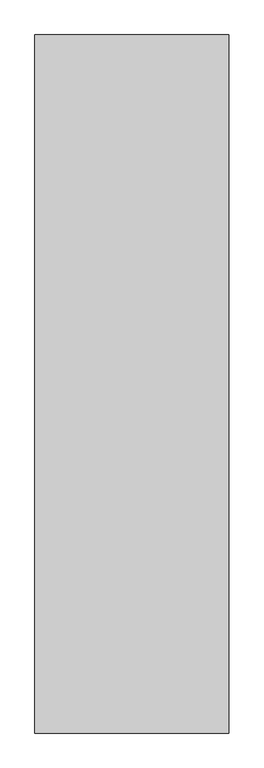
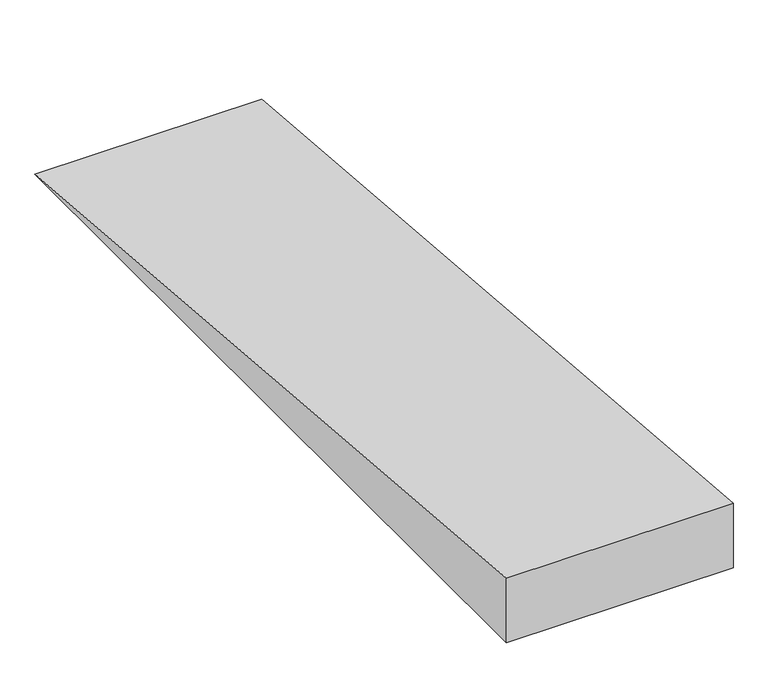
"""IFC4 building model written with IfcOpenShell, lengths in millimetres: ramp geometry, 教学楼坡道 – 1/12."""

from ifc_helpers import new_model, si_unit, frame, origin, place, context, project, spatial, polyline, outline, extrude, source, transform, mapped, element, save


def ramp_9aa5c65a(model_context):
    return source(origin(), model_context, "Body", "SweptSolid", [
        extrude(outline(polyline([(21200.0, 0.0), (26600.0, -450.0), (21200.0, -450.0), (21200.0, 0.0)])), frame((83750.0, 0.0, 0.0), z_axis=(1.0, 0.0, 0.0), x_axis=(0.0, 1.0, 0.0)), (0.0, 0.0, 1.0), 1500.0),
    ])


if __name__ == "__main__":
    model = new_model("IFC4")
    model_context = context("Model", 3, world=origin())
    ifc_project = project(units=[si_unit("LENGTHUNIT", "METRE", prefix="MILLI")], contexts=[model_context])
    site = spatial("IfcSite", under=ifc_project)
    building = spatial("IfcBuilding", under=site)
    placement = place(None, origin())
    ramp_shape = ramp_9aa5c65a(model_context)
    element("IfcRamp", 1, ObjectType="教学楼坡道 – 1/12", at=placement, inside=building, context=model_context, shape_type="MappedRepresentation", body=[
        mapped(ramp_shape, transform((0.0, 0.0, 0.0), x_axis=(1.0, 0.0, 0.0), y_axis=(0.0, 1.0, 0.0), z_axis=(0.0, 0.0, 1.0))),
    ])
    save(model, "model.ifc")
